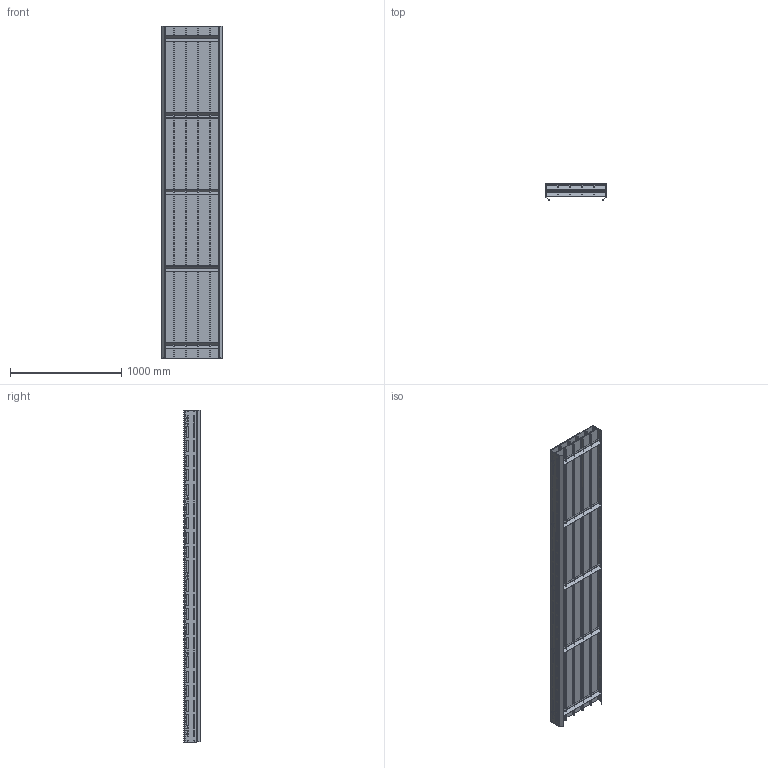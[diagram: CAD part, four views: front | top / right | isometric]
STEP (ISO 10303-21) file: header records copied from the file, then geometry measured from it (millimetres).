
FILE_DESCRIPTION (( 'STEP AP214' ), '1' );
FILE_NAME ('03.102S550.N FS-550-MTS2-100.INOX straight section L=2990.STEP', '2025-02-11T10:27:44', ( '' ), ( '' ), 'SwSTEP 2.0', 'SolidWorks 2024', '' );
FILE_SCHEMA (( 'AUTOMOTIVE_DESIGN' ));
Length unit declared in the file: millimetre
Products named in the file (1): 03.102S550.N FS-550-MTS2-100.INOX straight section L=2990
Bounding box: 548.5 x 145.63 x 2990 mm (x, y, z)
Volume: 35642347.6 mm3; surface area: 12320492.4 mm2
Topology: 24 solids, 24 shells, 1608 faces, 4680 edges, 3120 vertices
Faces by surface type: cylinder 930, plane 678
Entity records: 55406 total; most frequent: DIRECTION 9750, CARTESIAN_POINT 9433, ORIENTED_EDGE 9360, EDGE_CURVE 4680, AXIS2_PLACEMENT_3D 3469, VERTEX_POINT 3120, LINE 2812, VECTOR 2812
